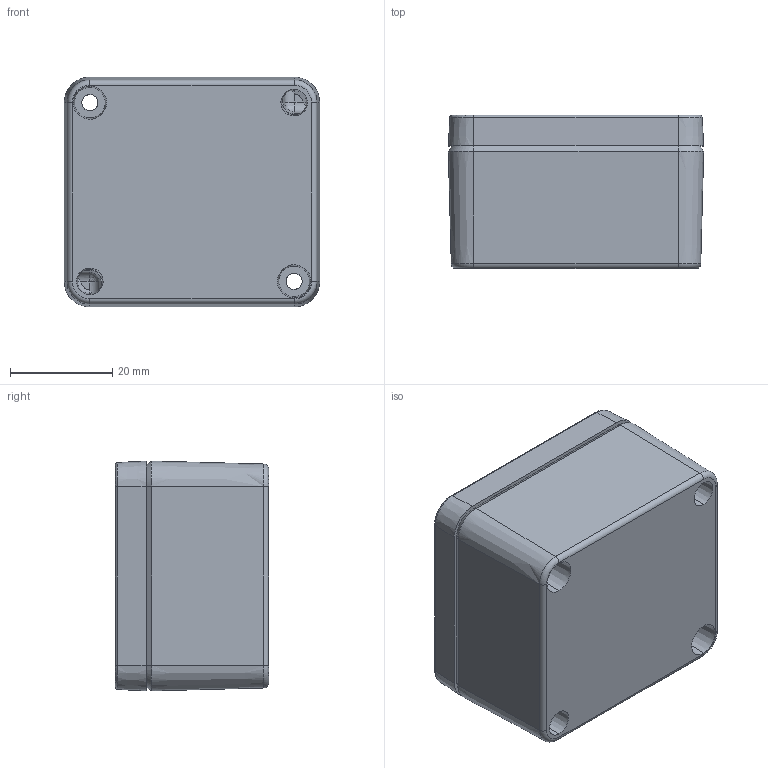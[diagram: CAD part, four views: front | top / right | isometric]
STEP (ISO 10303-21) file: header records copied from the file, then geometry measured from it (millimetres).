
FILE_DESCRIPTION (( 'STEP AP203' ), '1' );
FILE_NAME ('BB011.STEP', '2024-12-26T16:15:58', ( '' ), ( '' ), 'SwSTEP 2.0', 'SolidWorks 2019', '' );
FILE_SCHEMA (( 'CONFIG_CONTROL_DESIGN' ));
Length unit declared in the file: millimetre
Products named in the file (3): BB011; BASE_45_50_30; LID_45_50_30
Assembly tree (2 placements, depth 2):
  BB011
    BASE_45_50_30
    LID_45_50_30
Bounding box: 50.01 x 30 x 45.01 mm (x, y, z)
Volume: 23198.4 mm3; surface area: 20708.2 mm2
Topology: 2 solids, 2 shells, 359 faces, 882 edges, 540 vertices
Faces by surface type: cylinder 111, plane 104, cone 77, bspline 47, torus 20
Entity records: 18157 total; most frequent: CARTESIAN_POINT 10278, ORIENTED_EDGE 1750, DIRECTION 1302, EDGE_CURVE 875, VERTEX_POINT 540, AXIS2_PLACEMENT_3D 464, EDGE_LOOP 391, LINE 374
